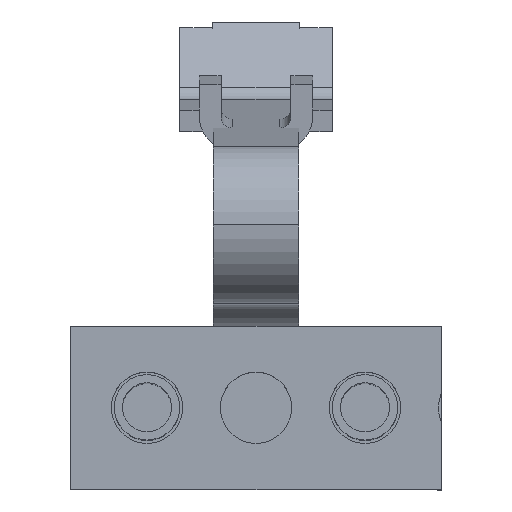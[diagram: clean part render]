
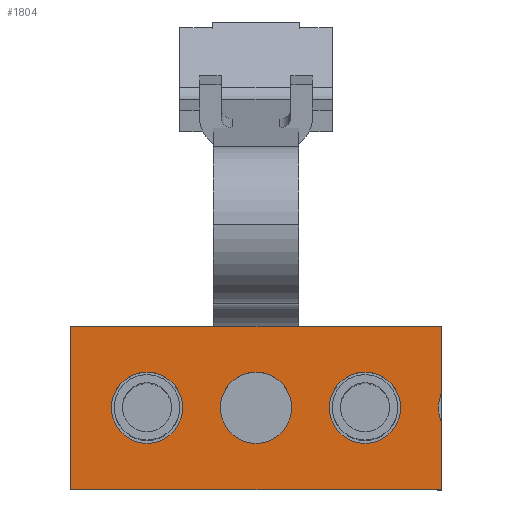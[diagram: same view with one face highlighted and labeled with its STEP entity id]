
A CAD part, top view. The second image highlights one B-rep face of the part: STEP entity #1804.
In plain terms, the highlighted planar face has unit normal (0, 0, 1).
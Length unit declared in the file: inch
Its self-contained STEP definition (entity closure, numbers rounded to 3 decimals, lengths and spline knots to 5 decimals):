
#1 = CARTESIAN_POINT ( 'NONE',  ( -0.03365, 0., 0.0625 ) ) ;
#26 = AXIS2_PLACEMENT_3D ( 'NONE', #816, #1461, #1986 ) ;
#81 = CIRCLE ( 'NONE', #285, 0.01635 ) ;
#162 = VECTOR ( 'NONE', #1397, 39.37008 ) ;
#164 = CARTESIAN_POINT ( 'NONE',  ( 0.085, -0.0375, 0.0625 ) ) ;
#169 = DIRECTION ( 'NONE',  ( 1., 0., 0. ) ) ;
#173 = VERTEX_POINT ( 'NONE', #3808 ) ;
#185 = ORIENTED_EDGE ( 'NONE', *, *, #3805, .F. ) ;
#187 = LINE ( 'NONE', #3231, #1071 ) ;
#248 = LINE ( 'NONE', #1156, #162 ) ;
#250 = CARTESIAN_POINT ( 'NONE',  ( 0.085, -0.00651, 0.0625 ) ) ;
#285 = AXIS2_PLACEMENT_3D ( 'NONE', #2037, #544, #169 ) ;
#349 = DIRECTION ( 'NONE',  ( -1., 0., 0. ) ) ;
#361 = EDGE_CURVE ( 'NONE', #963, #1769, #2545, .T. ) ;
#363 = VECTOR ( 'NONE', #3498, 39.37008 ) ;
#417 = EDGE_CURVE ( 'NONE', #2156, #3550, #187, .T. ) ;
#476 = FACE_BOUND ( 'NONE', #1131, .T. ) ;
#544 = DIRECTION ( 'NONE',  ( 0., 0., 1. ) ) ;
#661 = VERTEX_POINT ( 'NONE', #1912 ) ;
#700 = CARTESIAN_POINT ( 'NONE',  ( -0.06635, 0., 0.0625 ) ) ;
#742 = EDGE_LOOP ( 'NONE', ( #1372, #2250, #1252, #1942, #821, #2306 ) ) ;
#816 = CARTESIAN_POINT ( 'NONE',  ( 0.05, 0., 0.0625 ) ) ;
#821 = ORIENTED_EDGE ( 'NONE', *, *, #1679, .F. ) ;
#963 = VERTEX_POINT ( 'NONE', #1038 ) ;
#1036 = CARTESIAN_POINT ( 'NONE',  ( -0.085, -0.0375, 0.0625 ) ) ;
#1038 = CARTESIAN_POINT ( 'NONE',  ( 0.085, 0.0375, 0.0625 ) ) ;
#1071 = VECTOR ( 'NONE', #3234, 39.37008 ) ;
#1131 = EDGE_LOOP ( 'NONE', ( #2428, #185 ) ) ;
#1139 = LINE ( 'NONE', #2904, #363 ) ;
#1156 = CARTESIAN_POINT ( 'NONE',  ( 0.085, 3.22708, 0.0625 ) ) ;
#1252 = ORIENTED_EDGE ( 'NONE', *, *, #3440, .T. ) ;
#1330 = AXIS2_PLACEMENT_3D ( 'NONE', #2971, #2981, #2698 ) ;
#1372 = ORIENTED_EDGE ( 'NONE', *, *, #2007, .F. ) ;
#1397 = DIRECTION ( 'NONE',  ( 0., -1., 0. ) ) ;
#1416 = ORIENTED_EDGE ( 'NONE', *, *, #1686, .F. ) ;
#1461 = DIRECTION ( 'NONE',  ( 0., 0., 1. ) ) ;
#1479 = DIRECTION ( 'NONE',  ( 1., 0., 0. ) ) ;
#1484 = LINE ( 'NONE', #1551, #2873 ) ;
#1495 = DIRECTION ( 'NONE',  ( 0., 0., 1. ) ) ;
#1508 = CARTESIAN_POINT ( 'NONE',  ( -0.05, 0., 0.0625 ) ) ;
#1537 = DIRECTION ( 'NONE',  ( 0., -1., 0. ) ) ;
#1539 = DIRECTION ( 'NONE',  ( 0., 0., -1. ) ) ;
#1551 = CARTESIAN_POINT ( 'NONE',  ( 0.085, 3.22708, 0.0625 ) ) ;
#1568 = VERTEX_POINT ( 'NONE', #2344 ) ;
#1632 = EDGE_CURVE ( 'NONE', #661, #173, #2518, .T. ) ;
#1679 = EDGE_CURVE ( 'NONE', #3216, #2156, #248, .T. ) ;
#1686 = EDGE_CURVE ( 'NONE', #173, #661, #81, .T. ) ;
#1741 = EDGE_LOOP ( 'NONE', ( #1867, #3641 ) ) ;
#1766 = AXIS2_PLACEMENT_3D ( 'NONE', #1508, #1495, #1479 ) ;
#1769 = VERTEX_POINT ( 'NONE', #2429 ) ;
#1804 = ADVANCED_FACE ( 'NONE', ( #2739, #3515, #476, #1951 ), #3266, .F. ) ;
#1821 = EDGE_CURVE ( 'NONE', #1568, #3216, #2650, .T. ) ;
#1823 = CIRCLE ( 'NONE', #2448, 0.01635 ) ;
#1867 = ORIENTED_EDGE ( 'NONE', *, *, #2831, .F. ) ;
#1912 = CARTESIAN_POINT ( 'NONE',  ( 0.06635, 0., 0.0625 ) ) ;
#1942 = ORIENTED_EDGE ( 'NONE', *, *, #417, .F. ) ;
#1950 = CARTESIAN_POINT ( 'NONE',  ( 0.01635, 0., 0.0625 ) ) ;
#1951 = FACE_OUTER_BOUND ( 'NONE', #742, .T. ) ;
#1986 = DIRECTION ( 'NONE',  ( 1., 0., 0. ) ) ;
#2007 = EDGE_CURVE ( 'NONE', #963, #1568, #1484, .T. ) ;
#2037 = CARTESIAN_POINT ( 'NONE',  ( 0.05, 0., 0.0625 ) ) ;
#2077 = EDGE_CURVE ( 'NONE', #3587, #2540, #1823, .T. ) ;
#2098 = DIRECTION ( 'NONE',  ( 1., 0., 0. ) ) ;
#2110 = DIRECTION ( 'NONE',  ( 0., 0., 1. ) ) ;
#2121 = CARTESIAN_POINT ( 'NONE',  ( -0.05, 0., 0.0625 ) ) ;
#2129 = ORIENTED_EDGE ( 'NONE', *, *, #1632, .F. ) ;
#2156 = VERTEX_POINT ( 'NONE', #164 ) ;
#2188 = VERTEX_POINT ( 'NONE', #1 ) ;
#2250 = ORIENTED_EDGE ( 'NONE', *, *, #361, .T. ) ;
#2306 = ORIENTED_EDGE ( 'NONE', *, *, #1821, .F. ) ;
#2344 = CARTESIAN_POINT ( 'NONE',  ( 0.085, 0.00651, 0.0625 ) ) ;
#2428 = ORIENTED_EDGE ( 'NONE', *, *, #2925, .F. ) ;
#2429 = CARTESIAN_POINT ( 'NONE',  ( -0.085, 0.0375, 0.0625 ) ) ;
#2448 = AXIS2_PLACEMENT_3D ( 'NONE', #2515, #3079, #3312 ) ;
#2468 = AXIS2_PLACEMENT_3D ( 'NONE', #3080, #3070, #3043 ) ;
#2515 = CARTESIAN_POINT ( 'NONE',  ( 0., 0., 0.0625 ) ) ;
#2518 = CIRCLE ( 'NONE', #26, 0.01635 ) ;
#2540 = VERTEX_POINT ( 'NONE', #1950 ) ;
#2545 = LINE ( 'NONE', #2723, #2725 ) ;
#2615 = EDGE_LOOP ( 'NONE', ( #2129, #1416 ) ) ;
#2619 = AXIS2_PLACEMENT_3D ( 'NONE', #2121, #2110, #2098 ) ;
#2650 = CIRCLE ( 'NONE', #2468, 0.01635 ) ;
#2698 = DIRECTION ( 'NONE',  ( 1., 0., 0. ) ) ;
#2716 = CIRCLE ( 'NONE', #1766, 0.01635 ) ;
#2723 = CARTESIAN_POINT ( 'NONE',  ( 2.4625, 0.0375, 0.0625 ) ) ;
#2725 = VECTOR ( 'NONE', #2788, 39.37008 ) ;
#2739 = FACE_BOUND ( 'NONE', #2615, .T. ) ;
#2788 = DIRECTION ( 'NONE',  ( -1., 0., 0. ) ) ;
#2831 = EDGE_CURVE ( 'NONE', #2540, #3587, #3785, .T. ) ;
#2873 = VECTOR ( 'NONE', #1537, 39.37008 ) ;
#2904 = CARTESIAN_POINT ( 'NONE',  ( -0.085, 3.35515, 0.0625 ) ) ;
#2925 = EDGE_CURVE ( 'NONE', #2188, #3226, #2716, .T. ) ;
#2971 = CARTESIAN_POINT ( 'NONE',  ( 0., 0., 0.0625 ) ) ;
#2981 = DIRECTION ( 'NONE',  ( 0., 0., 1. ) ) ;
#3043 = DIRECTION ( 'NONE',  ( 1., 0., 0. ) ) ;
#3070 = DIRECTION ( 'NONE',  ( 0., 0., 1. ) ) ;
#3079 = DIRECTION ( 'NONE',  ( 0., 0., 1. ) ) ;
#3080 = CARTESIAN_POINT ( 'NONE',  ( 0.1, 0., 0.0625 ) ) ;
#3084 = CIRCLE ( 'NONE', #2619, 0.01635 ) ;
#3216 = VERTEX_POINT ( 'NONE', #250 ) ;
#3226 = VERTEX_POINT ( 'NONE', #700 ) ;
#3231 = CARTESIAN_POINT ( 'NONE',  ( 2.4625, -0.0375, 0.0625 ) ) ;
#3234 = DIRECTION ( 'NONE',  ( -1., 0., 0. ) ) ;
#3266 = PLANE ( 'NONE',  #3635 ) ;
#3288 = CARTESIAN_POINT ( 'NONE',  ( 2.4625, 0.0375, 0.0625 ) ) ;
#3312 = DIRECTION ( 'NONE',  ( 1., 0., 0. ) ) ;
#3440 = EDGE_CURVE ( 'NONE', #1769, #3550, #1139, .T. ) ;
#3498 = DIRECTION ( 'NONE',  ( 0., -1., 0. ) ) ;
#3515 = FACE_BOUND ( 'NONE', #1741, .T. ) ;
#3550 = VERTEX_POINT ( 'NONE', #1036 ) ;
#3587 = VERTEX_POINT ( 'NONE', #3612 ) ;
#3612 = CARTESIAN_POINT ( 'NONE',  ( -0.01635, 0., 0.0625 ) ) ;
#3635 = AXIS2_PLACEMENT_3D ( 'NONE', #3288, #1539, #349 ) ;
#3641 = ORIENTED_EDGE ( 'NONE', *, *, #2077, .F. ) ;
#3785 = CIRCLE ( 'NONE', #1330, 0.01635 ) ;
#3805 = EDGE_CURVE ( 'NONE', #3226, #2188, #3084, .T. ) ;
#3808 = CARTESIAN_POINT ( 'NONE',  ( 0.03365, 0., 0.0625 ) ) ;
